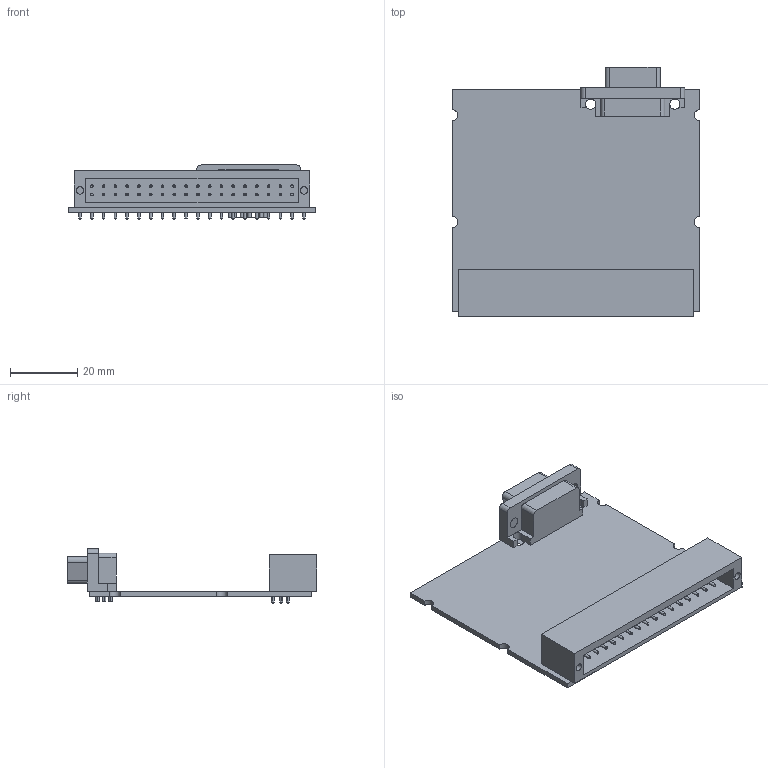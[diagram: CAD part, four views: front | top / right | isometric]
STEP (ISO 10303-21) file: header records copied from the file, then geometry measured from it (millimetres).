
FILE_DESCRIPTION((''),'2;1');
FILE_NAME('CU_36POS_WEID_CCA_ONLY','2015-12-17T',('dkendric'),(''),'PRO/ENGINEER BY PARAMETRIC TECHNOLOGY CORPORATION, 2015280','PRO/ENGINEER BY PARAMETRIC TECHNOLOGY CORPORATION, 2015280','');
FILE_SCHEMA(('CONFIG_CONTROL_DESIGN'));
Length unit declared in the file: inch
Products named in the file (1): CU_36POS_WEID_CCA_ONLY
Bounding box: 73.38 x 74.19 x 16.05 mm (x, y, z)
Surface area: 17548.2 mm2 (no closed solid volume)
Topology: 0 solids, 6 shells, 400 faces, 954 edges, 608 vertices
Faces by surface type: cylinder 172, cone 123, plane 105
Entity records: 11710 total; most frequent: DIRECTION 2282, CARTESIAN_POINT 1962, ORIENTED_EDGE 1744, EDGE_CURVE 954, AXIS2_PLACEMENT_3D 928, VERTEX_POINT 608, CIRCLE 528, EDGE_LOOP 501
